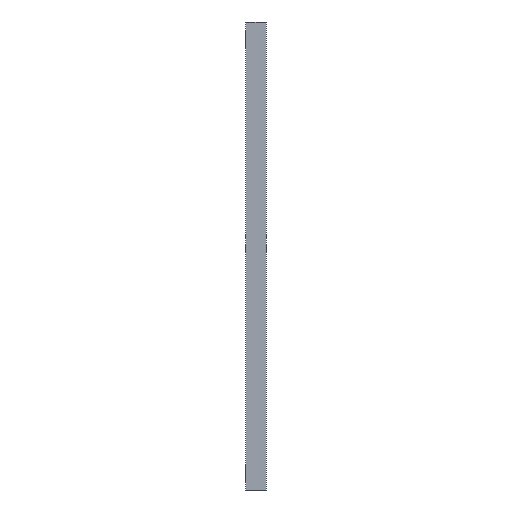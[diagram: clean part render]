
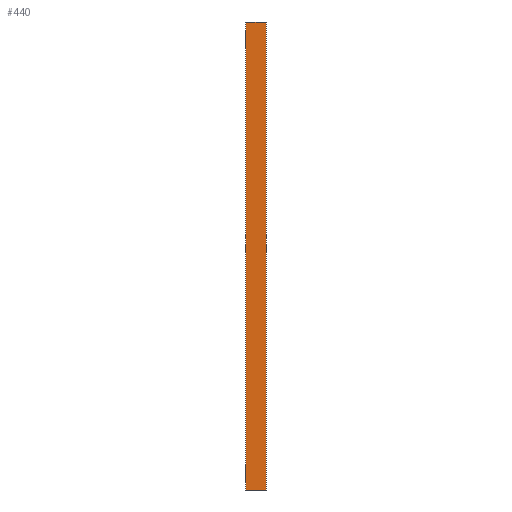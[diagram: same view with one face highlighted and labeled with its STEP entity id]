
A CAD part, left-side view. The second image highlights one B-rep face of the part: STEP entity #440.
In plain terms, the highlighted planar face has unit normal (-1, 0, 0).
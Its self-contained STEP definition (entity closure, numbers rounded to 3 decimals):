
#2 = CARTESIAN_POINT ( 'NONE',  ( -8., 0., 279. ) ) ;
#17 = EDGE_CURVE ( 'NONE', #1230, #207, #581, .T. ) ;
#23 = VERTEX_POINT ( 'NONE', #922 ) ;
#34 = PLANE ( 'NONE',  #1145 ) ;
#40 = DIRECTION ( 'NONE',  ( -1., 0., 0. ) ) ;
#53 = VECTOR ( 'NONE', #956, 1000. ) ;
#81 = CARTESIAN_POINT ( 'NONE',  ( -8., 0., 0. ) ) ;
#89 = VECTOR ( 'NONE', #1212, 1000. ) ;
#93 = LINE ( 'NONE', #532, #644 ) ;
#99 = LINE ( 'NONE', #317, #261 ) ;
#129 = DIRECTION ( 'NONE',  ( 0., 1., 0. ) ) ;
#133 = ORIENTED_EDGE ( 'NONE', *, *, #968, .F. ) ;
#149 = VERTEX_POINT ( 'NONE', #955 ) ;
#189 = LINE ( 'NONE', #81, #994 ) ;
#207 = VERTEX_POINT ( 'NONE', #1055 ) ;
#215 = CARTESIAN_POINT ( 'NONE',  ( -8., 0., 279. ) ) ;
#222 = VECTOR ( 'NONE', #928, 1000. ) ;
#242 = CARTESIAN_POINT ( 'NONE',  ( -8., 0., 0. ) ) ;
#244 = ORIENTED_EDGE ( 'NONE', *, *, #759, .F. ) ;
#261 = VECTOR ( 'NONE', #582, 1000. ) ;
#317 = CARTESIAN_POINT ( 'NONE',  ( -8., 12.5, 279. ) ) ;
#321 = CARTESIAN_POINT ( 'NONE',  ( -8., 0., 279. ) ) ;
#419 = EDGE_CURVE ( 'NONE', #1343, #510, #99, .T. ) ;
#431 = DIRECTION ( 'NONE',  ( 0., 1., 0. ) ) ;
#440 = ADVANCED_FACE ( 'NONE', ( #1100 ), #34, .T. ) ;
#464 = DIRECTION ( 'NONE',  ( 0., 0., 1. ) ) ;
#510 = VERTEX_POINT ( 'NONE', #1107 ) ;
#518 = VECTOR ( 'NONE', #129, 1000. ) ;
#532 = CARTESIAN_POINT ( 'NONE',  ( -8., 0., 279. ) ) ;
#565 = CARTESIAN_POINT ( 'NONE',  ( -8., 12.5, 279. ) ) ;
#581 = LINE ( 'NONE', #1407, #518 ) ;
#582 = DIRECTION ( 'NONE',  ( 0., 0., -1. ) ) ;
#644 = VECTOR ( 'NONE', #971, 1000. ) ;
#648 = LINE ( 'NONE', #242, #222 ) ;
#667 = EDGE_CURVE ( 'NONE', #23, #706, #1298, .T. ) ;
#706 = VERTEX_POINT ( 'NONE', #843 ) ;
#735 = LINE ( 'NONE', #984, #1218 ) ;
#741 = EDGE_CURVE ( 'NONE', #706, #1343, #735, .T. ) ;
#759 = EDGE_CURVE ( 'NONE', #23, #1027, #93, .T. ) ;
#799 = ORIENTED_EDGE ( 'NONE', *, *, #741, .T. ) ;
#843 = CARTESIAN_POINT ( 'NONE',  ( -8., 9.3, 279. ) ) ;
#860 = EDGE_CURVE ( 'NONE', #1230, #149, #189, .T. ) ;
#922 = CARTESIAN_POINT ( 'NONE',  ( -8., 3.2, 279. ) ) ;
#928 = DIRECTION ( 'NONE',  ( 0., 1., 0. ) ) ;
#954 = DIRECTION ( 'NONE',  ( 0., -1., 0. ) ) ;
#955 = CARTESIAN_POINT ( 'NONE',  ( -8., 0., 0. ) ) ;
#956 = DIRECTION ( 'NONE',  ( 0., 1., 0. ) ) ;
#957 = ORIENTED_EDGE ( 'NONE', *, *, #419, .T. ) ;
#962 = EDGE_LOOP ( 'NONE', ( #1126, #1414, #133, #244, #1285, #799, #957, #1154 ) ) ;
#968 = EDGE_CURVE ( 'NONE', #1027, #149, #1318, .T. ) ;
#971 = DIRECTION ( 'NONE',  ( 0., -1., 0. ) ) ;
#984 = CARTESIAN_POINT ( 'NONE',  ( -8., 12.5, 279. ) ) ;
#994 = VECTOR ( 'NONE', #954, 1000. ) ;
#1027 = VERTEX_POINT ( 'NONE', #215 ) ;
#1032 = EDGE_CURVE ( 'NONE', #207, #510, #648, .T. ) ;
#1055 = CARTESIAN_POINT ( 'NONE',  ( -8., 9.3, 0. ) ) ;
#1100 = FACE_OUTER_BOUND ( 'NONE', #962, .T. ) ;
#1107 = CARTESIAN_POINT ( 'NONE',  ( -8., 12.5, 0. ) ) ;
#1126 = ORIENTED_EDGE ( 'NONE', *, *, #17, .F. ) ;
#1145 = AXIS2_PLACEMENT_3D ( 'NONE', #1220, #40, #464 ) ;
#1154 = ORIENTED_EDGE ( 'NONE', *, *, #1032, .F. ) ;
#1212 = DIRECTION ( 'NONE',  ( 0., 0., -1. ) ) ;
#1218 = VECTOR ( 'NONE', #431, 1000. ) ;
#1220 = CARTESIAN_POINT ( 'NONE',  ( -8., 0., 279. ) ) ;
#1230 = VERTEX_POINT ( 'NONE', #1385 ) ;
#1285 = ORIENTED_EDGE ( 'NONE', *, *, #667, .T. ) ;
#1298 = LINE ( 'NONE', #321, #53 ) ;
#1318 = LINE ( 'NONE', #2, #89 ) ;
#1343 = VERTEX_POINT ( 'NONE', #565 ) ;
#1385 = CARTESIAN_POINT ( 'NONE',  ( -8., 3.2, 0. ) ) ;
#1407 = CARTESIAN_POINT ( 'NONE',  ( -8., 0., 0. ) ) ;
#1414 = ORIENTED_EDGE ( 'NONE', *, *, #860, .T. ) ;
